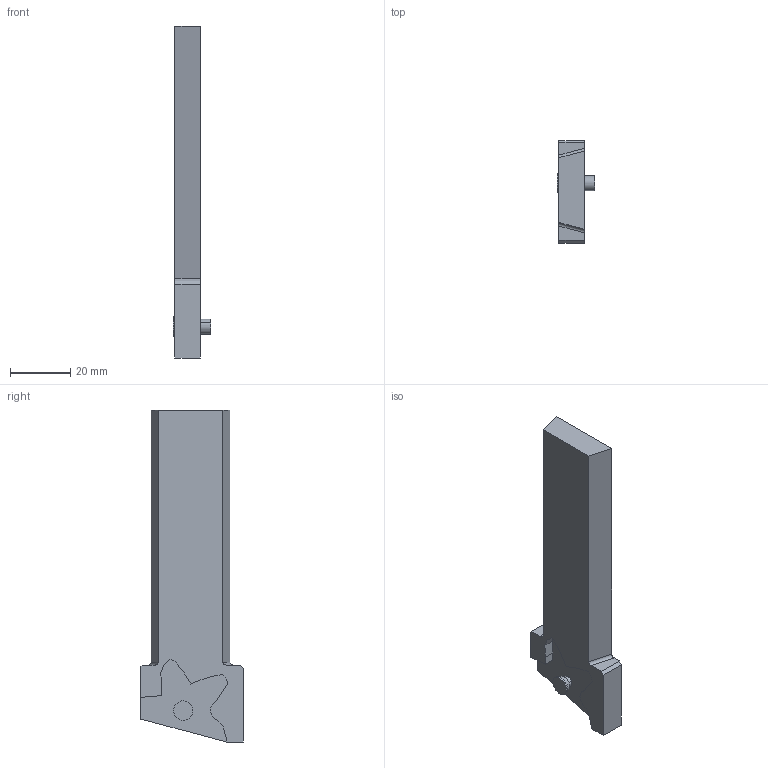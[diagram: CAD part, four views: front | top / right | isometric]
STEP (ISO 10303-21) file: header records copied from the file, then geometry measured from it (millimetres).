
FILE_DESCRIPTION(('CATIA V5 STEP Exchange'),'2;1');
FILE_NAME('I:\isr\design\admin8\users\hnany_a\2302300D.stp','2011-06-19T12:04:17+00:00',('none'),('none'),'CATIA Version 5 Release 19 SP 7 (IN-10)','CATIA V5 STEP AP214','none');
FILE_SCHEMA(('AUTOMOTIVE_DESIGN { 1 0 10303 214 1 1 1 1 }'));
Length unit declared in the file: millimetre
Products named in the file (1): 60797244_0 Assembly PCHBR 26-34L
Bounding box: 12.5 x 34 x 110 mm (x, y, z)
Volume: 22109.7 mm3; surface area: 8205.7 mm2
Topology: 1 solids, 1 shells, 42 faces, 109 edges, 72 vertices
Faces by surface type: plane 24, cylinder 16, cone 2
Entity records: 1291 total; most frequent: CARTESIAN_POINT 257, ORIENTED_EDGE 218, DIRECTION 183, EDGE_CURVE 109, VECTOR 75, LINE 75, VERTEX_POINT 72, AXIS2_PLACEMENT_3D 70
